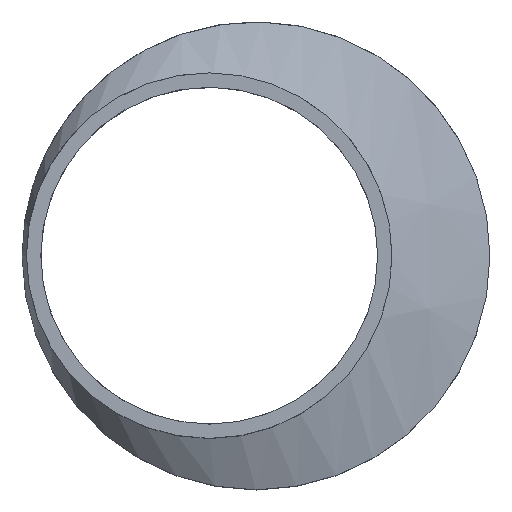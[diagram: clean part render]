
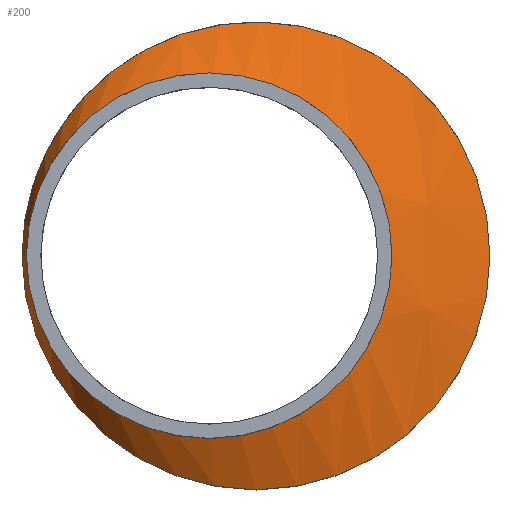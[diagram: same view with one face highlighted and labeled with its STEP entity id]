
A CAD part, top view. The second image highlights one B-rep face of the part: STEP entity #200.
In plain terms, the highlighted free-form (B-spline) face has degree [1, 2] with [2, 9] control points.
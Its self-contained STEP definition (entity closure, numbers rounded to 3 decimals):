
#15=B_SPLINE_CURVE_WITH_KNOTS($,1,(#381,#382),.UNSPECIFIED.,.F.,.F.,(2,
2),(-0.266,0.),.UNSPECIFIED.);
#17=(
BOUNDED_SURFACE()
B_SPLINE_SURFACE(1,2,((#359,#360,#361,#362,#363,#364,#365,#366,#367),(#368,
#369,#370,#371,#372,#373,#374,#375,#376)),.UNSPECIFIED.,.F.,.T.,.F.)
B_SPLINE_SURFACE_WITH_KNOTS((2,2),(3,2,2,2,3),(-1.966,0.64),
(-3.142,-1.571,0.,1.571,3.142),
 .UNSPECIFIED.)
GEOMETRIC_REPRESENTATION_ITEM()
RATIONAL_B_SPLINE_SURFACE(((1.,0.707,1.,0.707,1.,
0.707,1.,0.707,1.),(1.,0.707,1.,0.707,
1.,0.707,1.,0.707,1.)))
REPRESENTATION_ITEM($)
SURFACE()
);
#47=FACE_OUTER_BOUND($,#67,.T.);
#67=EDGE_LOOP($,(#157,#158,#159,#160,#161,#162));
#83=CIRCLE($,#221,80.);
#84=CIRCLE($,#222,80.);
#91=CIRCLE($,#231,62.5);
#92=CIRCLE($,#232,62.5);
#101=VERTEX_POINT($,#321);
#102=VERTEX_POINT($,#322);
#109=VERTEX_POINT($,#377);
#110=VERTEX_POINT($,#378);
#119=EDGE_CURVE($,#101,#102,#83,.T.);
#120=EDGE_CURVE($,#102,#101,#84,.T.);
#128=EDGE_CURVE($,#109,#110,#91,.T.);
#129=EDGE_CURVE($,#110,#109,#92,.T.);
#130=EDGE_CURVE($,#110,#102,#15,.T.);
#157=ORIENTED_EDGE($,*,*,#128,.F.);
#158=ORIENTED_EDGE($,*,*,#129,.F.);
#159=ORIENTED_EDGE($,*,*,#130,.T.);
#160=ORIENTED_EDGE($,*,*,#119,.F.);
#161=ORIENTED_EDGE($,*,*,#120,.F.);
#162=ORIENTED_EDGE($,*,*,#130,.F.);
#200=ADVANCED_FACE($,(#47),#17,.F.);
#221=AXIS2_PLACEMENT_3D($,#323,#266,#267);
#222=AXIS2_PLACEMENT_3D($,#324,#268,#269);
#231=AXIS2_PLACEMENT_3D($,#379,#286,#287);
#232=AXIS2_PLACEMENT_3D($,#380,#288,#289);
#266=DIRECTION('center_axis',(0.,0.,-1.));
#267=DIRECTION('ref_axis',(-1.,0.,0.));
#268=DIRECTION('center_axis',(0.,0.,-1.));
#269=DIRECTION('ref_axis',(-1.,0.,0.));
#286=DIRECTION('center_axis',(0.,0.,1.));
#287=DIRECTION('ref_axis',(-1.,0.,0.));
#288=DIRECTION('center_axis',(0.,0.,1.));
#289=DIRECTION('ref_axis',(-1.,0.,0.));
#321=CARTESIAN_POINT('',(80.,0.,35.));
#322=CARTESIAN_POINT('',(-49.416,62.913,35.));
#323=CARTESIAN_POINT('Origin',(0.,0.,35.));
#324=CARTESIAN_POINT('Origin',(0.,0.,35.));
#359=CARTESIAN_POINT('Ctrl Pts',(-11.079,164.565,-24.09));
#360=CARTESIAN_POINT('Ctrl Pts',(-102.159,164.565,-83.181));
#361=CARTESIAN_POINT('Ctrl Pts',(-102.159,0.,
-83.181));
#362=CARTESIAN_POINT('Ctrl Pts',(-102.159,-164.565,-83.181));
#363=CARTESIAN_POINT('Ctrl Pts',(-11.079,-164.565,-24.09));
#364=CARTESIAN_POINT('Ctrl Pts',(80.,-164.565,35.));
#365=CARTESIAN_POINT('Ctrl Pts',(80.,0.,
35.));
#366=CARTESIAN_POINT('Ctrl Pts',(80.,164.565,35.));
#367=CARTESIAN_POINT('Ctrl Pts',(-11.079,164.565,-24.09));
#368=CARTESIAN_POINT('Ctrl Pts',(-61.899,29.814,54.241));
#369=CARTESIAN_POINT('Ctrl Pts',(-78.4,29.814,43.535));
#370=CARTESIAN_POINT('Ctrl Pts',(-78.4,0.,43.535));
#371=CARTESIAN_POINT('Ctrl Pts',(-78.4,-29.814,43.535));
#372=CARTESIAN_POINT('Ctrl Pts',(-61.899,-29.814,54.241));
#373=CARTESIAN_POINT('Ctrl Pts',(-45.398,-29.814,64.946));
#374=CARTESIAN_POINT('Ctrl Pts',(-45.398,0.,64.946));
#375=CARTESIAN_POINT('Ctrl Pts',(-45.398,29.814,64.946));
#376=CARTESIAN_POINT('Ctrl Pts',(-61.899,29.814,54.241));
#377=CARTESIAN_POINT('',(46.5,0.,43.));
#378=CARTESIAN_POINT('',(-54.606,49.151,43.));
#379=CARTESIAN_POINT('Origin',(-16.,0.,43.));
#380=CARTESIAN_POINT('Origin',(-16.,0.,43.));
#381=CARTESIAN_POINT('Ctrl Pts',(-54.606,49.151,43.));
#382=CARTESIAN_POINT('Ctrl Pts',(-49.416,62.913,35.));
